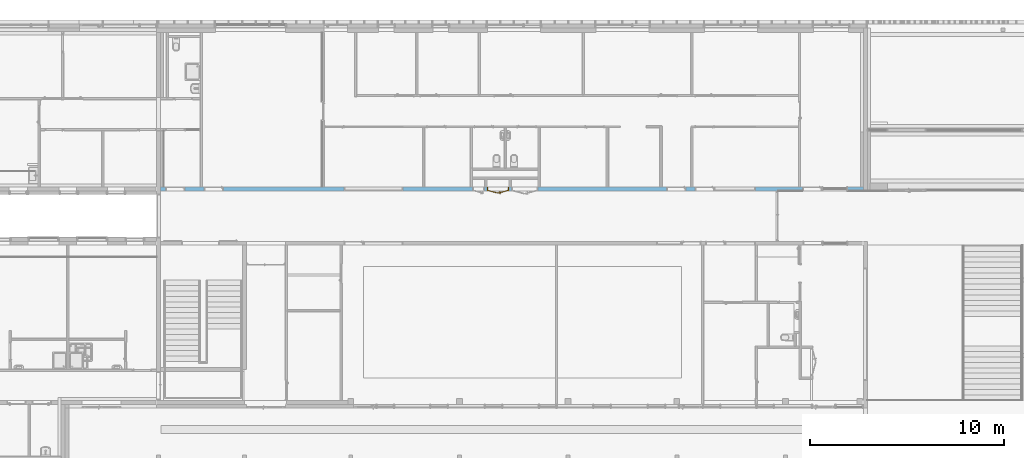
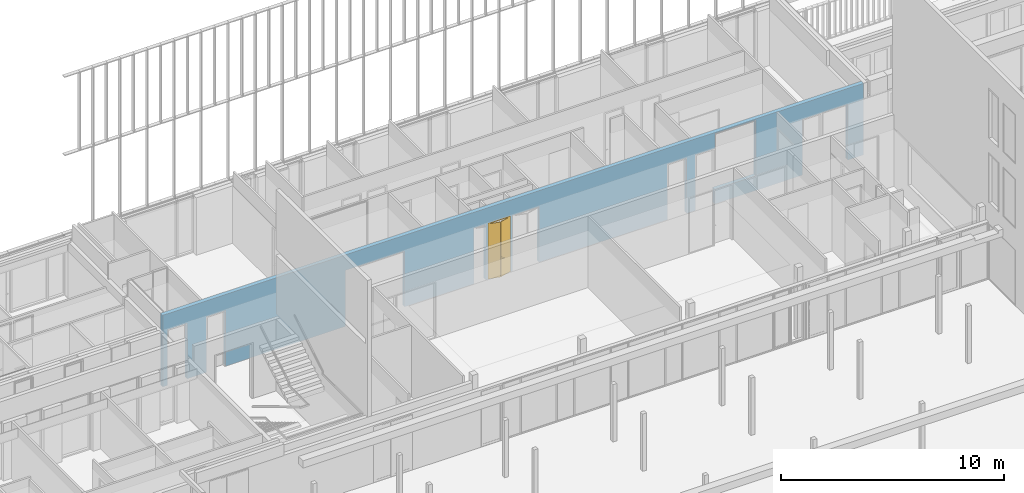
# One storey, part 213 of 240: 1 door, 11 openings, plus 1 element that does not belong to this part.
"""IFC2X3 building model written with IfcOpenShell, lengths in centimetres."""

from ifc_helpers import new_model, entity, si_unit, converted_unit, derived_unit, direction, frame, frame_2d, origin, place, context, subcontext, project, spatial, polyline, rectangle, extrude, clip, bounded_halfspace, faceted_brep, source, transform, mapped, material, material_list, layer, layer_set, layer_usage, type_object, type_shapes, element, fill, save


model = new_model("IFC2X3")

# Units and contexts
model_context = context("Model", 3, precision=0.001, world=origin(), true_north=direction((6.12303176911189e-17, 1.0)))
body_context = subcontext(model_context, "Body", "Model", "MODEL_VIEW")
ifc_project = project(units=[si_unit("LENGTHUNIT", "METRE", prefix="CENTI"), si_unit("AREAUNIT", "SQUARE_METRE"), si_unit("VOLUMEUNIT", "CUBIC_METRE"), converted_unit("PLANEANGLEUNIT", "DEGREE", entity("IfcRatioMeasure", 0.0174532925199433), si_unit("PLANEANGLEUNIT", "RADIAN"), dimensions=[0, 0, 0, 0, 0, 0, 0]), si_unit("MASSUNIT", "GRAM", prefix="KILO"), derived_unit("MASSDENSITYUNIT", [(si_unit("MASSUNIT", "GRAM", prefix="KILO"), 1), (si_unit("LENGTHUNIT", "METRE"), -3)]), si_unit("TIMEUNIT", "SECOND"), si_unit("FREQUENCYUNIT", "HERTZ"), si_unit("THERMODYNAMICTEMPERATUREUNIT", "DEGREE_CELSIUS"), derived_unit("THERMALTRANSMITTANCEUNIT", [(si_unit("MASSUNIT", "GRAM", prefix="KILO"), 1), (si_unit("THERMODYNAMICTEMPERATUREUNIT", "KELVIN"), -1), (si_unit("TIMEUNIT", "SECOND"), -3)]), derived_unit("VOLUMETRICFLOWRATEUNIT", [(si_unit("LENGTHUNIT", "METRE"), 3), (si_unit("TIMEUNIT", "SECOND"), -1)]), si_unit("ELECTRICCURRENTUNIT", "AMPERE"), si_unit("ELECTRICVOLTAGEUNIT", "VOLT"), si_unit("POWERUNIT", "WATT"), si_unit("FORCEUNIT", "NEWTON", prefix="KILO"), si_unit("ILLUMINANCEUNIT", "LUX"), si_unit("LUMINOUSFLUXUNIT", "LUMEN"), si_unit("LUMINOUSINTENSITYUNIT", "CANDELA"), derived_unit("USERDEFINED", [(si_unit("MASSUNIT", "GRAM", prefix="KILO"), -1), (si_unit("LENGTHUNIT", "METRE"), -2), (si_unit("TIMEUNIT", "SECOND"), 3), (si_unit("LUMINOUSFLUXUNIT", "LUMEN"), 1)]), derived_unit("LINEARVELOCITYUNIT", [(si_unit("LENGTHUNIT", "METRE"), 1), (si_unit("TIMEUNIT", "SECOND"), -1)]), si_unit("PRESSUREUNIT", "PASCAL"), derived_unit("USERDEFINED", [(si_unit("LENGTHUNIT", "METRE"), -2), (si_unit("MASSUNIT", "GRAM", prefix="KILO"), 1), (si_unit("TIMEUNIT", "SECOND"), -2)])], contexts=[model_context])

# Site, building, storey
site_placement = place(None, frame((-2781.94577612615, 7442.24238424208, 0.0)))
site = spatial("IfcSite", under=ifc_project, at=site_placement, Name="Default", CompositionType="ELEMENT")
building_placement = place(site_placement, origin())
building = spatial("IfcBuilding", under=site, at=building_placement, CompositionType="ELEMENT")
storey_placement = place(building_placement, origin())
storey = spatial("IfcBuildingStorey", under=building, at=storey_placement, Name="N00 - COO", CompositionType="ELEMENT", Elevation=0.0)

# Wall, openings, door
ifc_material_1 = material(Name="01 - Maçonnerie")
ifc_layer = layer(ifc_material_1, 20.0)
ifc_layer_set = layer_set([ifc_layer], Name="Mur de base:04 - Structure - béton - 20cm")
ifc_layer_usage = layer_usage(ifc_layer_set, "AXIS2", "NEGATIVE", 10.0)
wall_type = type_object("IfcWallType", Name="Mur de base:04 - Structure - béton - 20cm", PredefinedType="STANDARD", material=ifc_layer_set)
wall_placement = place(building_placement, frame((-8409.49987766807, -820.048500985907, 0.0)))
wall = element("IfcWallStandardCase", 1, at=wall_placement, inside=storey, type_object=wall_type, material=ifc_layer_usage, Name="Mur de base:04 - Structure - béton - 20cm", ObjectType="Mur de base:04 - Structure - béton - 20cm", context=body_context, shape_type="Clipping", body=[
    clip(extrude(rectangle(XDim=3621.50000006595, YDim=20.0, at=frame_2d((1810.75000003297, -1.59872115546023e-14), x_axis=(-1.0, 0.0))), origin(), (0.0, 0.0, 1.0), 391.0), bounded_halfspace(frame((0.0, -10.0, 391.0), z_axis=(0.0, 0.0, -1.0), x_axis=(0.0, 1.0, 0.0)), True, frame((0.0, -10.0, 391.0), z_axis=(0.0, 0.0, -1.0), x_axis=(0.0, 1.0, 0.0)), polyline([(0.0, 0.0), (20.0, 0.0), (20.0, 205.0), (20.0, 215.0), (20.0, 833.250000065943), (20.0, 843.250000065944), (20.0, 1351.0), (20.0, 1361.0), (20.0, 1603.69999798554), (20.0, 1671.0), (20.0, 1680.69999798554), (20.0, 1799.69999798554), (20.0, 1946.0), (20.0, 1956.0), (20.0, 2296.0), (20.0, 2306.0), (20.0, 2573.0), (20.0, 2583.0), (20.0, 2733.0), (20.0, 2743.0), (20.0, 3287.0), (20.0, 3297.0), (20.0, 3621.50000006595), (0.0, 3621.50000006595), (0.0, 3182.0), (0.0, 3172.0), (0.0, 0.0)]))),
])
opening_1_placement = place(wall_placement, origin())
element("IfcOpeningElement", 2, at=opening_1_placement, cuts=wall, Name="Mur de base:04 - Structure - béton - 20cm", ObjectType="Opening", context=body_context, shape_type="SweptSolid", body=[
    extrude(rectangle(XDim=306.0, YDim=133.000000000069, at=frame_2d((0.0, 4.33431068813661e-13), x_axis=(1.0, 0.0))), frame((3473.50000006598, -25.24, 153.0), z_axis=(0.0, 1.0, 0.0), x_axis=(0.0, 0.0, 1.0)), (0.0, 0.0, 1.0), 50.48),
])
opening_2_placement = place(wall_placement, frame((225.0, -10.0, 0.0)))
element("IfcOpeningElement", 3, at=opening_2_placement, cuts=wall, Name="Int. Simple:PV (0.93m x 3.00m):1", ObjectType="Opening", context=body_context, shape_type="SweptSolid", body=[
    extrude(rectangle(XDim=304.500000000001, YDim=99.9999999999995, at=frame_2d((152.250000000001, 50.0), x_axis=(1.0, 0.0))), frame((0.0, 0.0, 0.0), z_axis=(0.0, 1.0, 0.0), x_axis=(0.0, 0.0, 1.0)), (0.0, 0.0, 1.0), 20.0),
])
opening_3_placement = place(wall_placement, frame((2608.0, -10.0, 0.0)))
element("IfcOpeningElement", 4, at=opening_3_placement, cuts=wall, Name="Int. Simple:PV (0.93m x 3.00m):1", ObjectType="Opening", context=body_context, shape_type="SweptSolid", body=[
    extrude(rectangle(XDim=304.500000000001, YDim=99.9999999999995, at=frame_2d((152.250000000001, 50.0), x_axis=(1.0, 0.0))), frame((0.0, 0.0, 0.0), z_axis=(0.0, 1.0, 0.0), x_axis=(0.0, 0.0, 1.0)), (0.0, 0.0, 1.0), 20.0),
])
opening_4_placement = place(wall_placement, frame((2753.0, -10.0, 0.0)))
element("IfcOpeningElement", 5, at=opening_4_placement, cuts=wall, Name="Int. Simple:PV (0.93m x 3.00m):1", ObjectType="Opening", context=body_context, shape_type="SweptSolid", body=[
    extrude(rectangle(XDim=304.500000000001, YDim=99.9999999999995, at=frame_2d((152.250000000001, 50.0), x_axis=(1.0, 0.0))), frame((0.0, 0.0, 0.0), z_axis=(0.0, 1.0, 0.0), x_axis=(0.0, 0.0, 1.0)), (0.0, 0.0, 1.0), 20.0),
])
opening_5_placement = place(wall_placement, frame((3307.0, -10.0, 0.0)))
element("IfcOpeningElement", 6, at=opening_5_placement, cuts=wall, Name="Int. Simple:PV (0.93m x 3.00m):1", ObjectType="Opening", context=body_context, shape_type="SweptSolid", body=[
    extrude(rectangle(XDim=304.500000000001, YDim=99.9999999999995, at=frame_2d((152.250000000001, 50.0), x_axis=(1.0, 0.0))), frame((0.0, 0.0, 0.0), z_axis=(0.0, 1.0, 0.0), x_axis=(0.0, 0.0, 1.0)), (0.0, 0.0, 1.0), 20.0),
])
opening_6_placement = place(wall_placement, frame((1944.50000006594, 10.0, 0.0)))
element("IfcOpeningElement", 7, at=opening_6_placement, cuts=wall, Name="Int. Double:PP Placard (1.26m x 2.04m):1", ObjectType="Opening", context=body_context, shape_type="SweptSolid", body=[
    extrude(rectangle(XDim=304.500000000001, YDim=137.0, at=frame_2d((152.250000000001, 68.5), x_axis=(1.0, 0.0))), frame((0.0, 0.0, 0.0), z_axis=(0.0, -1.0, 0.0), x_axis=(0.0, 0.0, 1.0)), (0.0, 0.0, 1.0), 20.0),
])
opening_7_placement = place(wall_placement, frame((1794.50000006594, 10.0, 0.0)))
opening_7 = element("IfcOpeningElement", 8, at=opening_7_placement, cuts=wall, Name="Int. Double:PP Placard (1.05m x 3.00m):1", ObjectType="Opening", context=body_context, shape_type="SweptSolid", body=[
    extrude(rectangle(XDim=304.500000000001, YDim=112.0, at=frame_2d((152.250000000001, 56.0000000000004), x_axis=(1.0, 0.0))), frame((0.0, 0.0, 0.0), z_axis=(0.0, -1.0, 0.0), x_axis=(0.0, 0.0, 1.0)), (0.0, 0.0, 1.0), 20.0),
])
opening_8_placement = place(wall_placement, frame((1669.50000006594, 10.0, 0.0)))
element("IfcOpeningElement", 9, at=opening_8_placement, cuts=wall, Name="Int. Simple:PP Placard (0.55m x 3.00m):1", ObjectType="Opening", context=body_context, shape_type="SweptSolid", body=[
    extrude(rectangle(XDim=304.500000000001, YDim=61.9999999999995, at=frame_2d((152.250000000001, 30.9999999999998), x_axis=(1.0, 0.0))), frame((0.0, 0.0, 0.0), z_axis=(0.0, -1.0, 0.0), x_axis=(0.0, 0.0, 1.0)), (0.0, 0.0, 1.0), 20.0),
])
opening_9_placement = place(wall_placement, frame((945.0, -10.0, 0.0)))
element("IfcOpeningElement", 10, at=opening_9_placement, cuts=wall, Name="châssis intérieur vitré:châssis intérieur vitré (h=306):1", ObjectType="Opening", context=body_context, shape_type="SweptSolid", body=[
    extrude(rectangle(XDim=306.0, YDim=304.999999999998, at=frame_2d((153.0, 152.499999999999), x_axis=(1.0, 0.0))), frame((0.0, 0.0, 0.0), z_axis=(0.0, 1.0, 0.0), x_axis=(0.0, 0.0, 1.0)), (0.0, 0.0, 1.0), 20.0),
])
opening_10_placement = place(wall_placement, frame((25.2999999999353, -10.0, 0.0)))
element("IfcOpeningElement", 11, at=opening_10_placement, cuts=wall, Name="Int. Simple:PV (0.93m x 3.00m):1", ObjectType="Opening", context=body_context, shape_type="SweptSolid", body=[
    extrude(rectangle(XDim=304.500000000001, YDim=99.9999999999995, at=frame_2d((152.250000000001, 50.0), x_axis=(1.0, 0.0))), frame((0.0, 0.0, 0.0), z_axis=(0.0, 1.0, 0.0), x_axis=(0.0, 0.0, 1.0)), (0.0, 0.0, 1.0), 20.0),
])
opening_11_placement = place(wall_placement, frame((2853.0, -10.0, 80.0)))
element("IfcOpeningElement", 12, at=opening_11_placement, cuts=wall, Name="châssis intérieur vitré:châssis intérieur vitré (h=306):1", ObjectType="Opening", context=body_context, shape_type="SweptSolid", body=[
    extrude(rectangle(XDim=306.0, YDim=212.0, at=frame_2d((153.0, 106.0), x_axis=(1.0, 0.0))), frame((0.0, 0.0, 0.0), z_axis=(0.0, 1.0, 0.0), x_axis=(0.0, 0.0, 1.0)), (0.0, 0.0, 1.0), 20.0),
])
ifc_material_2 = material(Name="Bois - Panneau de porte")
ifc_material_3 = material(Name="Finition Peinture - Blanc satiné")
ifc_material_4 = material(Name="Bois - Cadre de porte")
ifc_material_list_1 = material_list([ifc_material_2, ifc_material_3, ifc_material_4])
ifc_material_list_2 = material_list([ifc_material_2, ifc_material_3, ifc_material_4])
door_style = type_object("IfcDoorStyle", Name="PP Placard (1.05m x 3.00m)", ConstructionType="NOTDEFINED", OperationType="DOUBLE_DOOR_SINGLE_SWING", ParameterTakesPrecedence=False, Sizeable=False, material=ifc_material_list_2)
shared_shape = source(origin(), body_context, "Body", "Brep", [
    faceted_brep([(55.2463820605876, -9.72429656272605, 301.0), (55.2463820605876, -9.72429656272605, 0.0), (4.5352761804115, 3.86370330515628, 0.0), (4.5352761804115, 3.86370330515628, 301.0), (54.2111058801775, -13.5879998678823, 301.0), (3.50000000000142, 0.0, 301.0), (3.50000000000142, 0.0, 0.0), (54.2111058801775, -13.5879998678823, 0.0)], [[[0, 1, 2, 3]], [[4, 5, 6, 7]], [[3, 5, 4, 0]], [[2, 6, 5, 3]], [[1, 7, 6, 2]], [[0, 4, 7, 1]]]),
    faceted_brep([(64.7138586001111, -12.2500993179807, 86.6003983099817), (65.6457102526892, -12.0004104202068, 87.0), (65.6457102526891, -12.0004104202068, 108.0), (64.713858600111, -12.2500993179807, 108.399601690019), (63.713858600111, -12.5180485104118, 108.535898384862), (62.713858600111, -12.785997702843, 108.399601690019), (61.7820069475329, -13.0356866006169, 108.0), (61.782006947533, -13.0356866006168, 87.0), (62.7138586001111, -12.7859977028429, 86.6003983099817), (63.7138586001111, -12.5180485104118, 86.464101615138), (64.5844490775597, -11.7671364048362, 108.399601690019), (65.5163007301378, -11.5174475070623, 108.0), (65.5163007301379, -11.5174475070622, 87.0), (64.5844490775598, -11.7671364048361, 86.6003983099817), (63.5844490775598, -12.0350855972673, 86.464101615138), (62.5844490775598, -12.3030347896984, 86.6003983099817), (61.6525974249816, -12.5527236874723, 87.0), (61.6525974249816, -12.5527236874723, 108.0), (62.5844490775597, -12.3030347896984, 108.399601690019), (63.5844490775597, -12.0350855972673, 108.535898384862)], [[[0, 1, 2, 3, 4, 5, 6, 7, 8, 9]], [[10, 11, 12, 13, 14, 15, 16, 17, 18, 19]], [[16, 15, 8, 7]], [[8, 15, 14, 9]], [[14, 13, 0, 9]], [[13, 12, 1, 0]], [[2, 1, 12, 11]], [[11, 10, 3, 2]], [[3, 10, 19, 4]], [[19, 18, 5, 4]], [[18, 17, 6, 5]], [[7, 6, 17, 16]]]),
    faceted_brep([(63.5491728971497, -7.90343309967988, 86.6003983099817), (64.4810245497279, -7.65374420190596, 87.0), (64.4810245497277, -7.653744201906, 108.0), (63.5491728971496, -7.90343309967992, 108.399601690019), (62.5491728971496, -8.17138229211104, 108.535898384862), (61.5491728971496, -8.43933148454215, 108.399601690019), (60.6173212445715, -8.68902038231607, 108.0), (60.6173212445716, -8.68902038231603, 87.0), (61.5491728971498, -8.43933148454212, 86.6003983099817), (62.5491728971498, -8.171382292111, 86.464101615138), (63.4197633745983, -7.42047018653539, 108.399601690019), (64.3516150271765, -7.17078128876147, 108.0), (64.3516150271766, -7.17078128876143, 87.0), (63.4197633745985, -7.42047018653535, 86.6003983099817), (62.4197633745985, -7.68841937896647, 86.464101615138), (61.4197633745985, -7.95636857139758, 86.6003983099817), (60.4879117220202, -8.20605746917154, 87.0), (60.4879117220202, -8.20605746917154, 108.0), (61.4197633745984, -7.95636857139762, 108.399601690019), (62.4197633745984, -7.68841937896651, 108.535898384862)], [[[0, 1, 2, 3, 4, 5, 6, 7, 8, 9]], [[10, 11, 12, 13, 14, 15, 16, 17, 18, 19]], [[11, 10, 3, 2]], [[3, 10, 19, 4]], [[19, 18, 5, 4]], [[18, 17, 6, 5]], [[7, 6, 17, 16]], [[16, 15, 8, 7]], [[8, 15, 14, 9]], [[14, 13, 0, 9]], [[13, 12, 1, 0]], [[2, 1, 12, 11]]]),
    faceted_brep([(63.5182297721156, -12.5704670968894, 100.778044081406), (63.9094874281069, -12.4656299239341, 100.778044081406), (64.2934140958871, -12.3627570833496, 100.699999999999), (64.293414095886, -12.3627570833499, 99.3000000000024), (63.9094874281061, -12.4656299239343, 99.2219559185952), (63.5182297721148, -12.5704670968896, 99.221955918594), (63.1343031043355, -12.6733399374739, 99.2999999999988), (63.1343031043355, -12.6733399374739, 100.7), (63.849962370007, -15.3442166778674, 100.7), (64.1912777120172, -15.0823162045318, 100.778044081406), (66.1568565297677, -16.2171436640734, 100.778044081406), (66.2140835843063, -15.7824610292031, 100.778044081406), (64.5391103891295, -14.8154148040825, 100.778044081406), (64.88042573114, -14.5535143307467, 100.7), (64.8804257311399, -14.5535143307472, 99.3000000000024), (64.5391103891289, -14.815414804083, 99.2219559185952), (66.2140835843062, -15.7824610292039, 99.2219559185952), (66.1568565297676, -16.2171436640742, 99.221955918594), (64.1912777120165, -15.0823162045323, 99.221955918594), (63.8499623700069, -15.3442166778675, 99.2999999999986), (66.100701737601, -16.6436816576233, 100.7), (66.2702383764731, -15.3559230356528, 100.7), (66.2702383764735, -15.3559230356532, 99.3000000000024), (66.1007017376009, -16.6436816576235, 99.2999999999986), (74.5662138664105, -14.375354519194, 99.2999999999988), (74.463341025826, -13.9914278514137, 99.221955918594), (74.3585038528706, -13.6001701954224, 99.2219559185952), (74.2556310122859, -13.2162435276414, 99.3000000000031), (74.255631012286, -13.2162435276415, 100.7), (74.3585038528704, -13.6001701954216, 100.778044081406), (74.4633410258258, -13.9914278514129, 100.778044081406), (74.5662138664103, -14.375354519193, 100.699999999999), (69.9576906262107, -15.6102045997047, 100.7), (70.3387123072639, -14.8869444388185, 100.78786867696), (70.2629346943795, -14.2860832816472, 100.7), (70.2629346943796, -14.2860832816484, 99.3000000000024), (70.3387122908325, -14.8869444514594, 99.2121313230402), (69.9576909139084, -15.6102045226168, 99.2999999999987)], [[[0, 1, 2, 3, 4, 5, 6, 7]], [[8, 9, 0, 7]], [[9, 10, 11, 12, 1, 0]], [[12, 13, 2, 1]], [[3, 2, 13, 14]], [[14, 15, 4, 3]], [[15, 16, 17, 18, 5, 4]], [[18, 19, 6, 5]], [[7, 6, 19, 8]], [[20, 10, 9, 8]], [[11, 21, 13, 12]], [[14, 13, 21, 22]], [[22, 16, 15, 14]], [[17, 23, 19, 18]], [[8, 19, 23, 20]], [[24, 25, 26, 27, 28, 29, 30, 31]], [[32, 30, 33]], [[31, 30, 32]], [[10, 20, 32]], [[33, 34, 11]], [[21, 11, 34]], [[34, 29, 28]], [[30, 29, 33]], [[29, 34, 33]], [[10, 32, 33]], [[10, 33, 11]], [[22, 21, 34, 28, 27, 35]], [[35, 26, 36]], [[37, 36, 25]], [[22, 35, 16]], [[35, 27, 26]], [[24, 37, 25]], [[23, 17, 37]], [[37, 17, 36]], [[17, 16, 36]], [[16, 35, 36]], [[25, 36, 26]], [[20, 23, 37, 24, 31, 32]]]),
    faceted_brep([(62.2241345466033, -7.74083796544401, 100.778044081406), (61.8402078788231, -7.84371080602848, 100.7), (61.8402078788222, -7.84371080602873, 99.2999999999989), (62.2241345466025, -7.74083796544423, 99.221955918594), (62.6153922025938, -7.63600079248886, 99.2219559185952), (62.9993188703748, -7.53312795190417, 99.3000000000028), (62.9993188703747, -7.5331279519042, 100.7), (62.6153922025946, -7.63600079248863, 100.778044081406), (62.4173589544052, -5.36122397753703, 99.3000000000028), (62.4173589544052, -5.36122397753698, 100.7), (61.9908209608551, -5.30506918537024, 100.778044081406), (62.9675905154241, -3.61325468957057, 100.778044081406), (62.7006891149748, -3.26542201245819, 100.778044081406), (61.5561383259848, -5.24784213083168, 100.778044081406), (61.1296003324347, -5.19168733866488, 100.7), (61.1296003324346, -5.19168733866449, 99.2999999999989), (61.5561383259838, -5.24784213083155, 99.221955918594), (62.7006891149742, -3.26542201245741, 99.221955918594), (62.9675905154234, -3.61325468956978, 99.2219559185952), (61.9908209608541, -5.30506918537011, 99.2219559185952), (63.2294909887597, -3.95457003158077, 99.3000000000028), (63.2294909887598, -3.95457003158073, 100.7), (62.4387886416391, -2.92410667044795, 100.7), (62.4387886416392, -2.92410667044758, 99.2999999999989), (71.2042231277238, -1.81774699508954, 99.3000000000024), (71.1013502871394, -1.43382032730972, 99.2219559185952), (70.996513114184, -1.04256267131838, 99.221955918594), (70.8936402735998, -0.658636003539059, 99.2999999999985), (70.8936402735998, -0.658636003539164, 100.7), (70.9965131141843, -1.04256267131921, 100.778044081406), (71.1013502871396, -1.43382032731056, 100.778044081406), (71.2042231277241, -1.81774699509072, 100.7), (67.2168559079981, -2.88615882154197, 99.3000000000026), (67.2168570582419, -2.88615851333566, 100.7), (66.9820518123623, -2.32790868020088, 100.78786867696), (66.2957775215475, -1.89062961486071, 100.7), (66.2957773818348, -1.8906296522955, 99.2999999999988), (66.9820518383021, -2.32790868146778, 99.2121313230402)], [[[0, 1, 2, 3, 4, 5, 6, 7]], [[6, 5, 8, 9]], [[9, 10, 7, 6]], [[10, 11, 12, 13, 0, 7]], [[13, 14, 1, 0]], [[2, 1, 14, 15]], [[15, 16, 3, 2]], [[16, 17, 18, 19, 4, 3]], [[19, 8, 5, 4]], [[9, 8, 20, 21]], [[21, 11, 10, 9]], [[12, 22, 14, 13]], [[15, 14, 22, 23]], [[23, 17, 16, 15]], [[18, 20, 8, 19]], [[24, 25, 26, 27, 28, 29, 30, 31]], [[21, 20, 32, 24, 31, 33]], [[33, 30, 34]], [[35, 34, 29]], [[21, 33, 11]], [[33, 31, 30]], [[28, 35, 29]], [[22, 12, 35]], [[35, 12, 34]], [[12, 11, 34]], [[11, 33, 34]], [[29, 34, 30]], [[22, 35, 28, 27, 36, 23]], [[36, 26, 37]], [[27, 26, 36]], [[17, 23, 36]], [[37, 32, 18]], [[20, 18, 32]], [[32, 25, 24]], [[26, 25, 37]], [[25, 32, 37]], [[17, 36, 37]], [[17, 37, 18]]]),
    faceted_brep([(56.7536179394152, -9.72429656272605, 301.0), (107.464723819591, 3.86370330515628, 301.0), (107.464723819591, 3.86370330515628, 0.0), (56.7536179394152, -9.72429656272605, 0.0), (57.7888941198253, -13.5879998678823, 301.0), (57.7888941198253, -13.5879998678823, 0.0), (108.500000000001, 0.0, 0.0), (108.500000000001, 0.0, 301.0)], [[[0, 1, 2, 3]], [[4, 5, 6, 7]], [[1, 0, 4, 7]], [[2, 1, 7, 6]], [[3, 2, 6, 5]], [[0, 3, 5, 4]]]),
    faceted_brep([(0.0, 0.0, 0.0), (0.0, 20.0, 0.0), (5.0, 20.0, 0.0), (5.0, 4.0, 0.0), (3.50000000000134, 4.0, 0.0), (3.50000000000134, 0.0, 0.0), (0.0, 0.0, 304.500000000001), (0.0, 20.0, 304.500000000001), (112.0, 20.0, 304.500000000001), (112.0, 20.0, 0.0), (107.0, 20.0, 0.0), (107.0, 20.0, 299.5), (5.0, 20.0, 299.5), (5.0, 4.0, 299.5), (107.0, 4.0, 299.5), (107.0, 4.0, 0.0), (108.499999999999, 4.0, 0.0), (108.499999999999, 4.0, 301.0), (3.50000000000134, 4.0, 301.0), (3.50000000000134, 0.0, 301.0), (108.499999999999, 0.0, 301.0), (108.499999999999, 0.0, 0.0), (112.0, 0.0, 0.0), (112.0, 0.0, 304.500000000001)], [[[0, 1, 2, 3, 4, 5]], [[1, 0, 6, 7]], [[2, 1, 7, 8, 9, 10, 11, 12]], [[3, 2, 12, 13]], [[4, 3, 13, 14, 15, 16, 17, 18]], [[5, 4, 18, 19]], [[0, 5, 19, 20, 21, 22, 23, 6]], [[8, 23, 22, 9]], [[22, 21, 16, 15, 10, 9]], [[14, 11, 10, 15]], [[20, 17, 16, 21]], [[7, 6, 23, 8]], [[13, 12, 11, 14]], [[19, 18, 17, 20]]]),
    faceted_brep([(1.50000000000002, 20.0, 0.0), (-1.49999999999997, 20.0, 0.0), (-1.49999999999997, 20.5000000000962, 0.0), (1.50000000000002, 20.5000000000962, 0.0), (1.50000000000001, 20.0, 303.0), (110.5, 20.0, 303.0), (110.5, 20.0, 0.0), (113.5, 20.0, 0.0), (113.5, 20.0, 306.0), (-1.49999999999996, 20.0, 306.0), (-1.49999999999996, 20.5000000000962, 306.0), (113.5, 20.5000000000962, 306.0), (113.5, 20.5000000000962, 0.0), (110.5, 20.5000000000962, 0.0), (110.5, 20.5000000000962, 303.0), (1.50000000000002, 20.5000000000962, 303.0)], [[[0, 1, 2, 3]], [[1, 0, 4, 5, 6, 7, 8, 9]], [[2, 1, 9, 10]], [[3, 2, 10, 11, 12, 13, 14, 15]], [[0, 3, 15, 4]], [[5, 14, 13, 6]], [[6, 13, 12, 7]], [[11, 8, 7, 12]], [[4, 15, 14, 5]], [[10, 9, 8, 11]]]),
    faceted_brep([(-1.49999999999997, -0.500000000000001, 0.0), (1.50000000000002, -0.500000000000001, 0.0), (1.50000000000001, -0.500000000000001, 303.0), (110.5, -0.500000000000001, 303.0), (110.5, -0.500000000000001, 0.0), (113.5, -0.500000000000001, 0.0), (113.5, -0.500000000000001, 306.0), (-1.49999999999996, -0.500000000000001, 306.0), (-1.49999999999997, 0.0, 0.0), (-1.49999999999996, 0.0, 306.0), (1.50000000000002, 0.0, 0.0), (113.5, 0.0, 306.0), (113.5, 0.0, 0.0), (110.5, 0.0, 0.0), (110.5, 0.0, 303.0), (1.50000000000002, 0.0, 303.0)], [[[0, 1, 2, 3, 4, 5, 6, 7]], [[8, 0, 7, 9]], [[10, 8, 9, 11, 12, 13, 14, 15]], [[1, 10, 15, 2]], [[3, 14, 13, 4]], [[11, 6, 5, 12]], [[2, 15, 14, 3]], [[9, 7, 6, 11]], [[4, 13, 12, 5]], [[1, 0, 8, 10]]]),
])
type_shapes(door_style, [shared_shape])
door_placement = place(opening_7_placement, frame((-112.0, -20.0, 0.0)))
door = element("IfcDoor", 13, at=door_placement, inside=storey, type_object=door_style, material=ifc_material_list_1, Name="Int. Double:PP Placard (1.05m x 3.00m)", ObjectType="Int. Double:PP Placard (1.05m x 3.00m)", OverallHeight=304.500000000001, OverallWidth=112.000000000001, context=body_context, shape_type="MappedRepresentation", body=[
    mapped(shared_shape, transform((0.0, 0.0, 0.0), scale=1.0)),
])
fill(opening_7, door)

save(model, "model.ifc")
